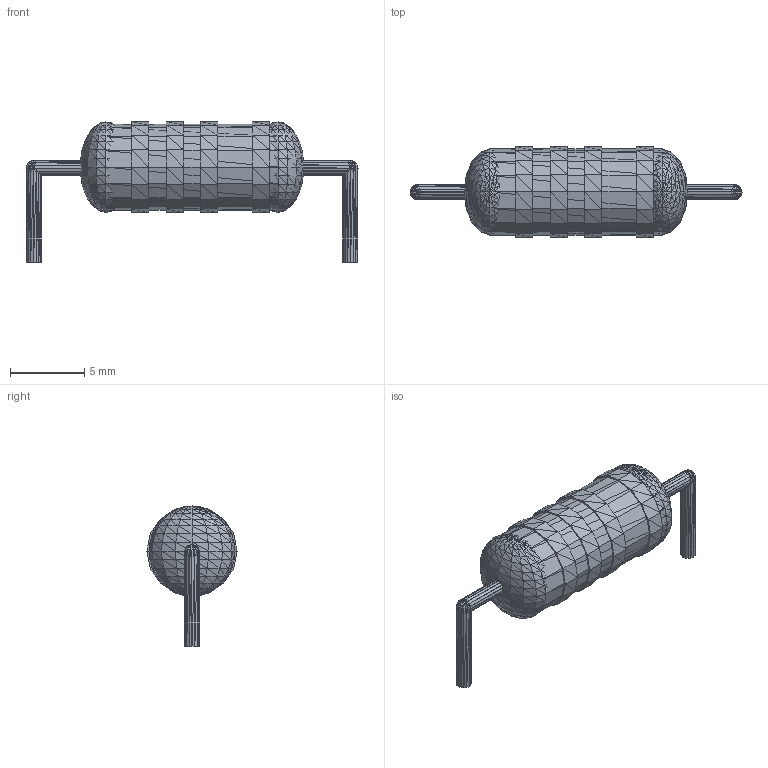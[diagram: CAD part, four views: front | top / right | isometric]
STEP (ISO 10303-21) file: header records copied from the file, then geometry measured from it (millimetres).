
FILE_DESCRIPTION(('HOOPS Exchange Step'),'2;1');
FILE_NAME('***.stp');
FILE_SCHEMA( ('AP242_MANAGED_MODEL_BASED_3D_ENGINEERING_MIM_LF {1 0 10303 442 1 1 4 }') );
Length unit declared in the file: inch
Products named in the file (7): R_2W_1K_2; R_2W_1K_3; R_2W_1K_4; R_2W_1K_5; R_2W_1K_6; R_2W_1K_7; R_2W_1K
Assembly tree (6 placements, depth 2):
  R_2W_1K
    R_2W_1K_2
    R_2W_1K_3
    R_2W_1K_4
    R_2W_1K_5
    R_2W_1K_6
    R_2W_1K_7
Bounding box: 22.35 x 6.08 x 9.44 mm (x, y, z)
Volume: 454.4 mm3; surface area: 855.8 mm2
Topology: 8 solids, 12 shells, 2432 faces, 3648 edges, 1240 vertices
Faces by surface type: plane 2432
Entity records: 47806 total; most frequent: DIRECTION 8540, CARTESIAN_POINT 7334, ORIENTED_EDGE 7296, VECTOR 3648, LINE 3648, EDGE_CURVE 3648, AXIS2_PLACEMENT_3D 2446, PLANE 2432
